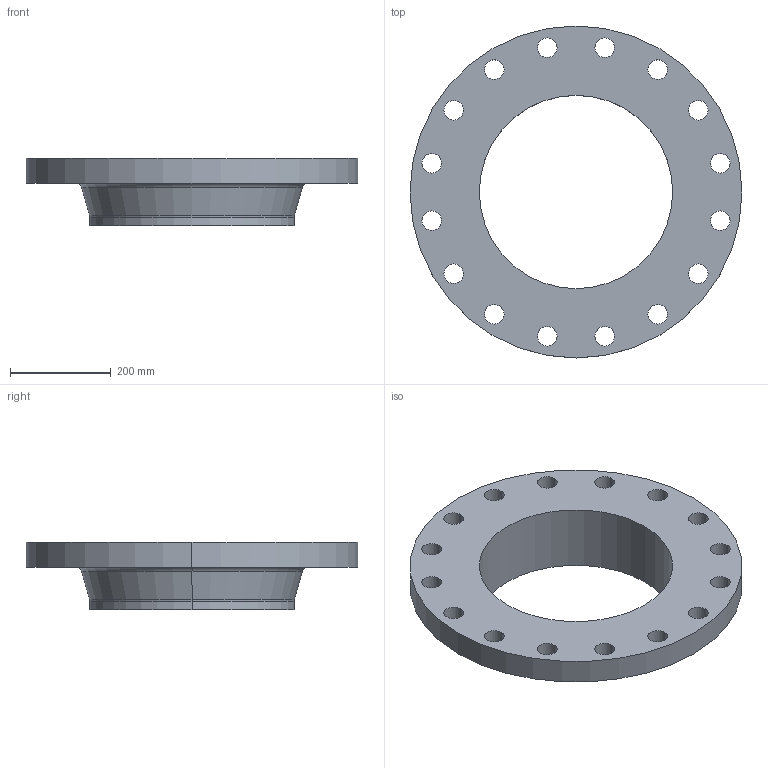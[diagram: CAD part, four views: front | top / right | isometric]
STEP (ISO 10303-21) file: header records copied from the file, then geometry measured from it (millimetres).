
FILE_DESCRIPTION (( 'STEP AP214' ), '1' );
FILE_NAME ('PN40 DN400 Type 11 - Type A Face.STEP', '2019-01-05T23:20:11', ( '' ), ( '' ), 'SwSTEP 2.0', 'SolidWorks 2019', '' );
FILE_SCHEMA (( 'AUTOMOTIVE_DESIGN' ));
Length unit declared in the file: millimetre
Products named in the file (1): PN40 DN400 Type 11 - Type A Face
Bounding box: 660 x 660 x 135 mm (x, y, z)
Volume: 12350960 mm3; surface area: 865877.9 mm2
Topology: 1 solids, 1 shells, 47 faces, 126 edges, 82 vertices
Faces by surface type: cylinder 38, torus 4, plane 3, cone 2
Entity records: 1620 total; most frequent: DIRECTION 308, CARTESIAN_POINT 256, ORIENTED_EDGE 252, AXIS2_PLACEMENT_3D 134, EDGE_CURVE 126, CIRCLE 86, EDGE_LOOP 82, VERTEX_POINT 82
